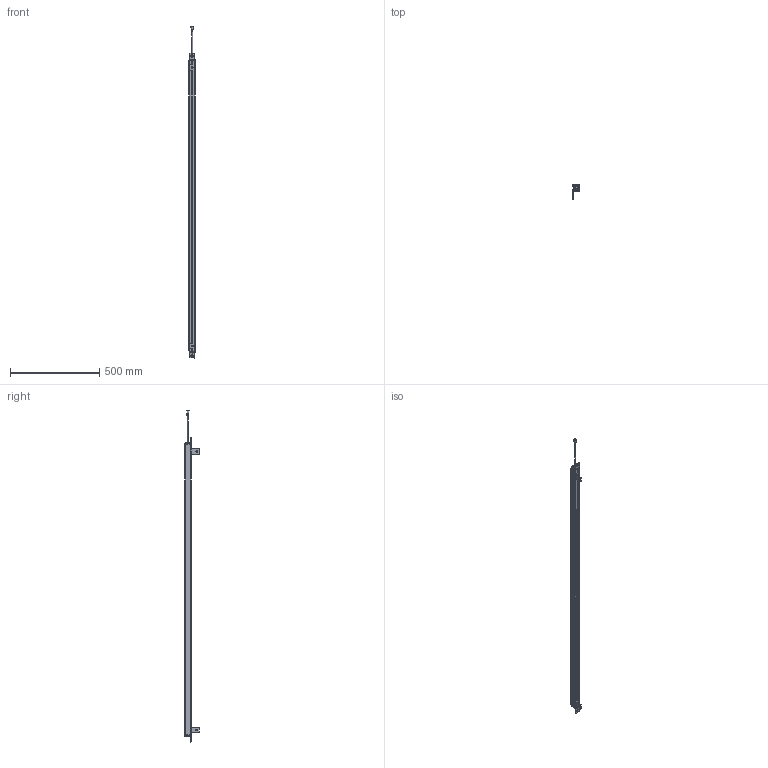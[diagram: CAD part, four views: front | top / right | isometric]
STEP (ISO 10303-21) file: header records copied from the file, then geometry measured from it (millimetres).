
FILE_DESCRIPTION(/* description */ (''),/* implementation_level */ '2;1');
FILE_NAME(/* name */ 'MTD4040.stp',/* time_stamp */ '2023-12-04T16:38:16+08:00',/* author */ (''),/* organization */ (''),/* preprocessor_version */ 'ST-DEVELOPER v16.7',/* originating_system */ 'SIEMENS PLM Software NX 12.0',/* authorisation */ '');
FILE_SCHEMA (('AP203_CONFIGURATION_CONTROLLED_3D_DESIGN_OF_MECHANICAL_PARTS_AND_ASSEMBLIES_MIM_LF { 1 0 10303 403 2 1 2}'));
Length unit declared in the file: millimetre
Products named in the file (1): 1040（35X35__stp
Bounding box: 37 x 80.6 x 1862.01 mm (x, y, z)
Volume: 790239 mm3; surface area: 591970 mm2
Topology: 10 solids, 10 shells, 563 faces, 1626 edges, 1096 vertices
Faces by surface type: plane 325, cylinder 202, cone 36
Full cylindrical faces by diameter (mm): 4.4 x1, 9 x1, 12.5 x1
Entity records: 18972 total; most frequent: CARTESIAN_POINT 3375, DIRECTION 3263, ORIENTED_EDGE 3230, EDGE_CURVE 1615, VERTEX_POINT 1092, AXIS2_PLACEMENT_3D 1088, LINE 1087, VECTOR 1087
